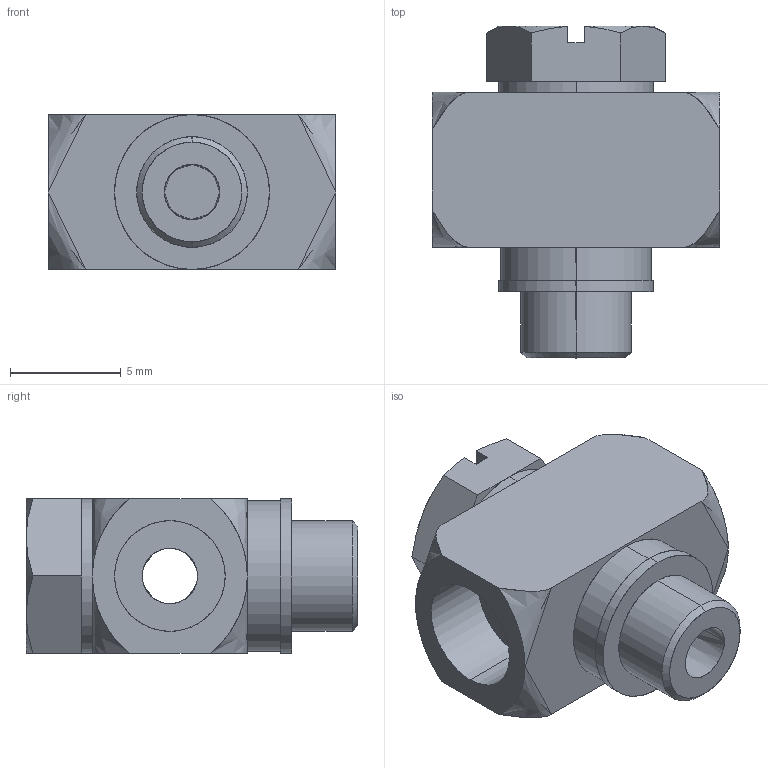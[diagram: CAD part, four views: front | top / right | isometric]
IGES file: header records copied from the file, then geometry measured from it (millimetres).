
Start section: SolidWorks IGES file using analytic representation for surfaces
Global section: file name: \\PSSILO\catalogs\SMCDatabase\M3062\cache\M3M-5UT01012222183544.igs; native system: SolidWorks 2008; preprocessor: SolidWorks 2008; author: partstream; date: 080101.222222; units: millimetre
Bounding box: 13 x 15 x 7 mm (x, y, z)
Surface area: 816.3 mm2 (no closed solid volume)
Topology: 0 solids, 0 shells, 66 faces, 954 edges, 946 vertices
Faces by surface type: bspline 38, revolution 28
